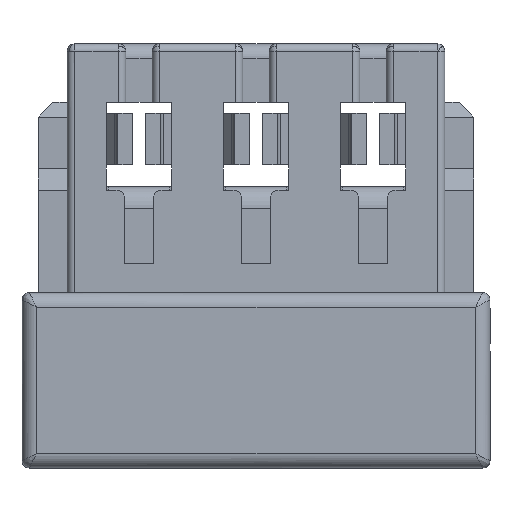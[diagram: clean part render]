
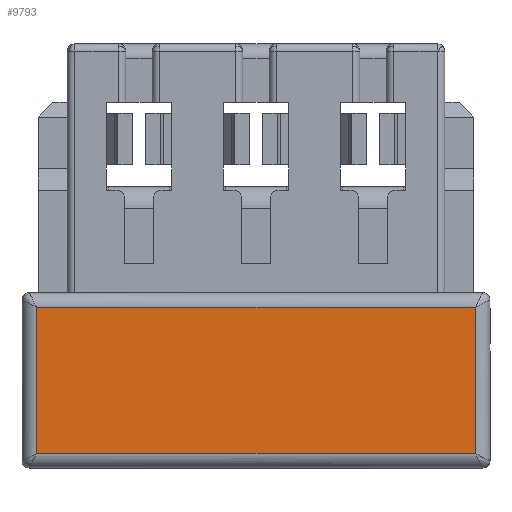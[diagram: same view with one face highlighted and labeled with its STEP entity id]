
A CAD part, front view. The second image highlights one B-rep face of the part: STEP entity #9793.
In plain terms, the highlighted planar face has unit normal (0, -1, 0).
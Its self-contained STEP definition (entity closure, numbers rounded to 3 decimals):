
#212=DIRECTION('',(-1.,0.,0.));
#213=VECTOR('',#212,3.);
#214=CARTESIAN_POINT('',(-13.3,0.,0.1));
#215=LINE('',#214,#213);
#244=CARTESIAN_POINT('',(-16.3,0.,1.1));
#254=DIRECTION('',(0.,0.,1.));
#255=VECTOR('',#254,1.);
#256=CARTESIAN_POINT('',(-16.3,0.,0.1));
#257=LINE('',#256,#255);
#1911=DIRECTION('',(0.,0.,-1.));
#1912=VECTOR('',#1911,1.);
#1913=CARTESIAN_POINT('',(-13.3,0.,1.1));
#1914=LINE('',#1913,#1912);
#7072=DIRECTION('',(1.,0.,0.));
#7073=VECTOR('',#7072,3.);
#7074=CARTESIAN_POINT('',(-16.3,0.,1.1));
#7075=LINE('',#7074,#7073);
#7090=CARTESIAN_POINT('',(-13.3,0.,1.1));
#7466=VERTEX_POINT('',#244);
#7467=CARTESIAN_POINT('',(-16.3,0.,0.1));
#7468=VERTEX_POINT('',#7467);
#7975=VERTEX_POINT('',#7090);
#8897=CARTESIAN_POINT('',(-13.3,0.,0.1));
#8898=VERTEX_POINT('',#8897);
#9779=CARTESIAN_POINT('',(-13.6,0.,0.6));
#9780=DIRECTION('',(0.,1.,0.));
#9781=DIRECTION('',(0.,0.,1.));
#9782=AXIS2_PLACEMENT_3D('',#9779,#9780,#9781);
#9783=PLANE('',#9782);
#9784=ORIENTED_EDGE('',*,*,#9769,.T.);
#9786=ORIENTED_EDGE('',*,*,#9785,.T.);
#9788=ORIENTED_EDGE('',*,*,#9787,.T.);
#9790=ORIENTED_EDGE('',*,*,#9789,.T.);
#9791=EDGE_LOOP('',(#9784,#9786,#9788,#9790));
#9792=FACE_OUTER_BOUND('',#9791,.F.);
#9793=ADVANCED_FACE('',(#9792),#9783,.F.);
#9769=EDGE_CURVE('',#8898,#7468,#215,.T.);
#9785=EDGE_CURVE('',#7468,#7466,#257,.T.);
#9787=EDGE_CURVE('',#7466,#7975,#7075,.T.);
#9789=EDGE_CURVE('',#7975,#8898,#1914,.T.);
